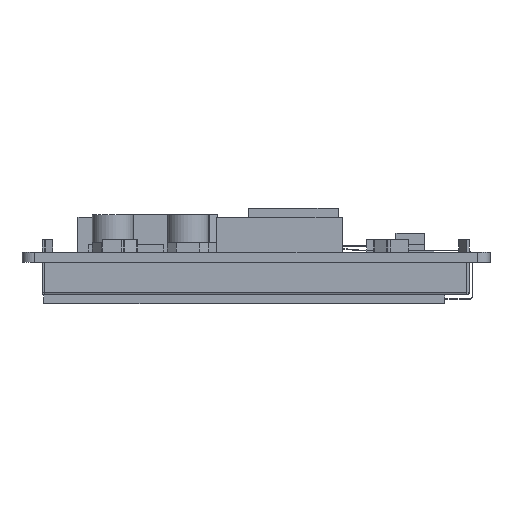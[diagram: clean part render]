
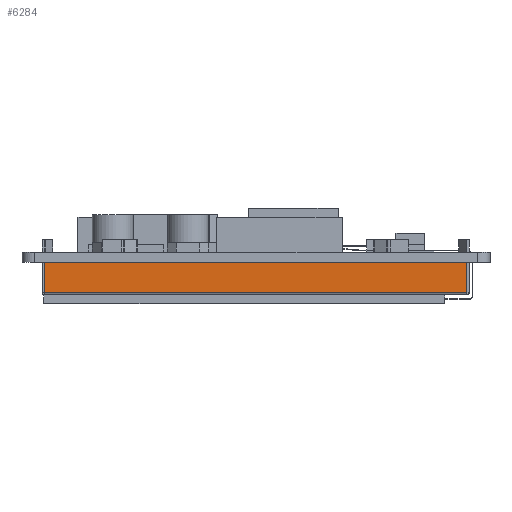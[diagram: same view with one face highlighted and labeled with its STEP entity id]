
A CAD part, left-side view. The second image highlights one B-rep face of the part: STEP entity #6284.
In plain terms, the highlighted planar face has unit normal (-1, 0, 0).
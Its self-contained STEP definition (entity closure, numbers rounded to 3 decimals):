
#6284=ADVANCED_FACE('',(#10487),#8383,.F.);
#8383=PLANE('',#39555);
#10487=FACE_OUTER_BOUND('',#12678,.T.);
#12678=EDGE_LOOP('',(#17468,#17469,#17470,#17471));
#17468=ORIENTED_EDGE('',*,*,#27503,.T.);
#17469=ORIENTED_EDGE('',*,*,#27504,.F.);
#17470=ORIENTED_EDGE('',*,*,#27505,.F.);
#17471=ORIENTED_EDGE('',*,*,#27506,.T.);
#23986=VERTEX_POINT('',#53731);
#23987=VERTEX_POINT('',#53732);
#23988=VERTEX_POINT('',#53734);
#23989=VERTEX_POINT('',#53736);
#27503=EDGE_CURVE('',#23986,#23987,#31814,.T.);
#27504=EDGE_CURVE('',#23988,#23987,#31815,.T.);
#27505=EDGE_CURVE('',#23989,#23988,#31816,.T.);
#27506=EDGE_CURVE('',#23989,#23986,#31817,.T.);
#31814=LINE('',#53730,#36048);
#31815=LINE('',#53733,#36049);
#31816=LINE('',#53735,#36050);
#31817=LINE('',#53737,#36051);
#36048=VECTOR('',#44362,1.);
#36049=VECTOR('',#44363,1.);
#36050=VECTOR('',#44364,1.);
#36051=VECTOR('',#44365,1.);
#39555=AXIS2_PLACEMENT_3D('',#53738,#44366,#44367);
#44362=DIRECTION('',(0.,1.,0.));
#44363=DIRECTION('',(0.,0.,1.));
#44364=DIRECTION('',(0.,1.,0.));
#44365=DIRECTION('',(0.,0.,1.));
#44366=DIRECTION('',(1.,0.,0.));
#44367=DIRECTION('',(0.,1.,0.));
#53730=CARTESIAN_POINT('',(67.65,-14.395,-1.6));
#53731=CARTESIAN_POINT('',(67.65,-14.395,-1.6));
#53732=CARTESIAN_POINT('',(67.65,53.005,-1.6));
#53733=CARTESIAN_POINT('',(67.65,53.005,-6.4));
#53734=CARTESIAN_POINT('',(67.65,53.005,-6.4));
#53735=CARTESIAN_POINT('',(67.65,-14.395,-6.4));
#53736=CARTESIAN_POINT('',(67.65,-14.395,-6.4));
#53737=CARTESIAN_POINT('',(67.65,-14.395,-6.4));
#53738=CARTESIAN_POINT('',(67.65,-14.395,-6.4));
